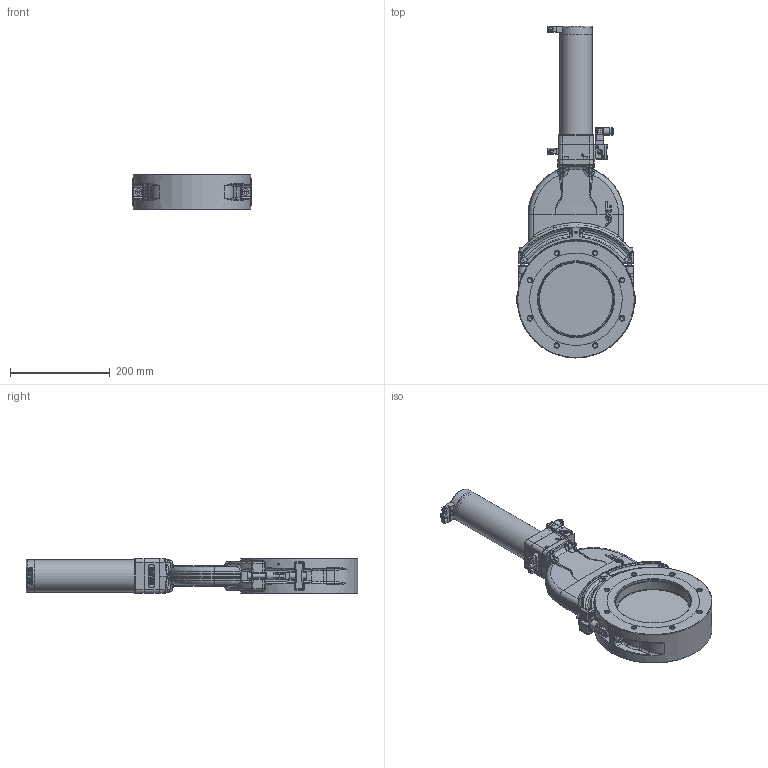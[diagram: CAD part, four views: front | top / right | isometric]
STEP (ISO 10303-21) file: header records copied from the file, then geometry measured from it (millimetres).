
FILE_DESCRIPTION(/* description */ (''),/* implementation_level */ '2;1');
FILE_NAME(/* name */ '1113511510_203.stp',/* time_stamp */ '2020-02-26T16:16:35+01:00',/* author */ (''),/* organization */ (''),/* preprocessor_version */ 'ST-DEVELOPER v16',/* originating_system */ 'SIEMENS PLM Software NX 11.0',/* authorisation */ '');
FILE_SCHEMA (('AP203_CONFIGURATION_CONTROLLED_3D_DESIGN_OF_MECHANICAL_PARTS_AND_ASSEMBLIES_MIM_LF { 1 0 10303 403 2 1 2}'));
Products named in the file (61): N-8406-013_3.2; N-8406-013_2.1; 226657.3; 214869.5; 323364.1; 323431.3; N-6195-007.2; 323395.1; 323386.1; 323388.3; N-7100-005_2.1; 323413.3; N-6121-027.2; 216311.3; 237912.3_27499ID; 467882; 437235; 73662-01.1; 202839_1.2; N-6121-039.1; N-6099-417.1; 226660.4_27567ID; n-6013-460.1; 232884.1_158258ID; 214850.6_27346ID; 237899.1; 237903.1; 231511.2; N-7557-016_1.1; N-7557-018.1; N-7557-016_2.1; N-6024-524.1; N-5018-005.1; 77379-01.1; T-9001-055.1; N-6016-478.2; 213005.2; 213006.3; N-6121-026.2; 211950.1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
Assembly tree (87 placements, depth 5):
  214859
    N-6005-482.1  x4
    213003.1  x2
    213000.7_NX-ARRAGMNTVB (gerade) gestreckt  x2
      214173.2
      211950.1
      N-6121-026.2
      213006.3
      213005.2
    213004_1.1  x2
    78855-r1.9_NX-ARRAGMNTLM mit allen Teilen, Produktionsmodell PCA  x2
      N-6016-478.2
      T-9001-055.1
      78856-R1.3
        N-6099-417.1  x2
        N-6121-039.1
        202839_1.2
        73662-01.1
        N-8406-013_1_1.4_NX-ARRAGMNTZUSAMMENST1
          N-8406-013_2.1
          202839_1.2
          N-8406-013_3.2
      77379-01.1
    94800-r1.7_NX-ARRAGMNTKONFIG1
      N-5018-005.1  x2
      N-6024-524.1  x6
      N-7557-016_2.1
      N-7557-018.1
      N-7557-016_1.1
      N-7557-016_3.1_MODELNX-ARRAGMNTArrangement 1
        437235
        467882
    237996.7_NX-ARRAGMNTMassbild CLOSE (ALLE Innenteile +Stange unterdrue
ckt)
      231511.2
      237903.1
      237907.2_MODEL
        237912.3_27499ID
        216311.3
        N-6121-027.2  x2
      237899.1
      87090-R1_2.3_NX-ARRAGMNTUNBETAETIGT
        323413.3
        N-7100-005_2.1
        323388.3
        323386.1
        323395.1
        N-6195-007.2
        323431.3
      87090-R1_2.3_NX-ARRAGMNTBETAETIGT
        323413.3
        N-7100-005_2.1
        323388.3
        323395.1
        N-6195-007.2
        323431.3
        323364.1
    213194.1  x2
    263414.7_MODEL
      214850.6_27346ID
    214849.8_MODEL
Bounding box: 236.95 x 664.3 x 70 mm (x, y, z)
Volume: 2710141.7 mm3; surface area: 669307 mm2
Topology: 99 solids, 99 shells, 4147 faces, 10389 edges, 6557 vertices
Faces by surface type: plane 1814, cylinder 866, bspline 848, cone 260, extrusion 186, torus 139, sphere 32, revolution 2
Full cylindrical faces by diameter (mm): 1.4 x4, 1.5 x4, 1.93 x2, 2 x4, 2.115 x8, 2.3 x2, 2.475 x6, 2.5 x6, 2.56 x2, 2.575 x2, 3 x15, 3.2 x4, 3.3 x6, 3.4 x4, 3.5 x13, 4 x2, 4.1 x2, 4.2 x8, 4.22 x1, 4.3 x2, 4.4 x4, 4.7 x4, 4.96 x4, 5 x17, 5.4 x5, 5.5 x2, 5.6 x2, 5.65 x2, 5.7 x2, 5.8 x4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
Entity records: 143964 total; most frequent: CARTESIAN_POINT 58683, ORIENTED_EDGE 15940, DIRECTION 12679, EDGE_CURVE 7970, VERTEX_POINT 5264, AXIS2_PLACEMENT_3D 4803, EDGE_LOOP 4062, ADVANCED_FACE 3373
